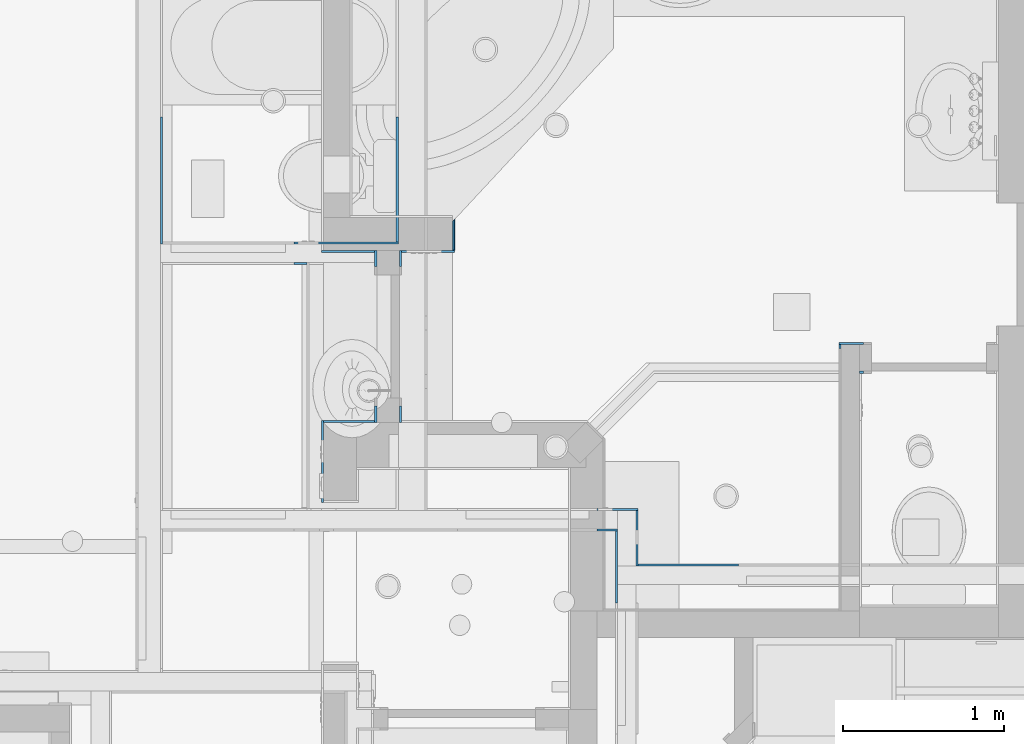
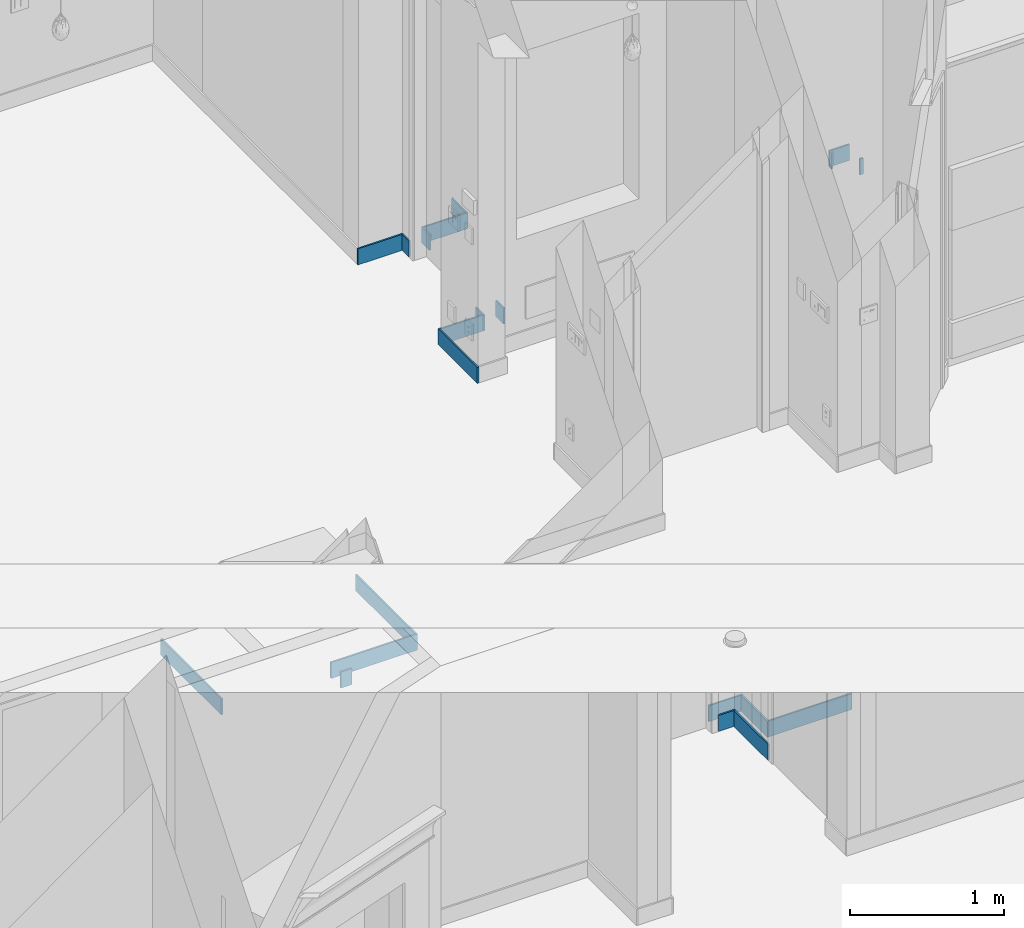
# One storey, part 24 of 81: 21 walls.
"""IFC2X3 building model written with IfcOpenShell, lengths in feet."""

from ifc_helpers import new_model, entity, si_unit, converted_unit, derived_unit, direction, frame, frame_2d, origin, place, context, subcontext, project, spatial, polyline, rectangle, extrude, clip, bounded_halfspace, material, layer, layer_set, layer_usage, type_object, element, save


model = new_model("IFC2X3")

# Units and contexts
model_context = context("Model", 3, precision=0.0001, world=origin(), true_north=direction((6.12303176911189e-17, 1.0)))
body_context = subcontext(model_context, "Body", "Model", "MODEL_VIEW")
ifc_project = project(units=[converted_unit("LENGTHUNIT", "FOOT", entity("IfcRatioMeasure", 0.3048), si_unit("LENGTHUNIT", "METRE"), dimensions=[1, 0, 0, 0, 0, 0, 0]), converted_unit("AREAUNIT", "SQUARE FOOT", entity("IfcRatioMeasure", 0.09290304), si_unit("AREAUNIT", "SQUARE_METRE"), dimensions=[2, 0, 0, 0, 0, 0, 0]), converted_unit("VOLUMEUNIT", "CUBIC FOOT", entity("IfcRatioMeasure", 0.028316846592), si_unit("VOLUMEUNIT", "CUBIC_METRE"), dimensions=[3, 0, 0, 0, 0, 0, 0]), converted_unit("PLANEANGLEUNIT", "DEGREE", entity("IfcRatioMeasure", 0.0174532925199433), si_unit("PLANEANGLEUNIT", "RADIAN"), dimensions=[0, 0, 0, 0, 0, 0, 0]), si_unit("MASSUNIT", "GRAM", prefix="KILO"), derived_unit("MASSDENSITYUNIT", [(si_unit("MASSUNIT", "GRAM", prefix="KILO"), 1), (si_unit("LENGTHUNIT", "METRE"), -3)]), derived_unit("MOMENTOFINERTIAUNIT", [(si_unit("LENGTHUNIT", "METRE"), 4)]), si_unit("TIMEUNIT", "SECOND"), si_unit("FREQUENCYUNIT", "HERTZ"), si_unit("THERMODYNAMICTEMPERATUREUNIT", "DEGREE_CELSIUS"), derived_unit("THERMALTRANSMITTANCEUNIT", [(si_unit("MASSUNIT", "GRAM", prefix="KILO"), 1), (si_unit("THERMODYNAMICTEMPERATUREUNIT", "KELVIN"), -1), (si_unit("TIMEUNIT", "SECOND"), -3)]), derived_unit("VOLUMETRICFLOWRATEUNIT", [(si_unit("LENGTHUNIT", "METRE"), 3), (si_unit("TIMEUNIT", "SECOND"), -1)]), si_unit("ELECTRICCURRENTUNIT", "AMPERE"), si_unit("ELECTRICVOLTAGEUNIT", "VOLT"), si_unit("POWERUNIT", "WATT"), si_unit("FORCEUNIT", "NEWTON"), si_unit("ILLUMINANCEUNIT", "LUX"), si_unit("LUMINOUSFLUXUNIT", "LUMEN"), si_unit("LUMINOUSINTENSITYUNIT", "CANDELA"), derived_unit("USERDEFINED", [(si_unit("MASSUNIT", "GRAM", prefix="KILO"), -1), (si_unit("LENGTHUNIT", "METRE"), -2), (si_unit("TIMEUNIT", "SECOND"), 3), (si_unit("LUMINOUSFLUXUNIT", "LUMEN"), 1)]), derived_unit("LINEARVELOCITYUNIT", [(si_unit("LENGTHUNIT", "METRE"), 1), (si_unit("TIMEUNIT", "SECOND"), -1)]), si_unit("PRESSUREUNIT", "PASCAL"), derived_unit("USERDEFINED", [(si_unit("LENGTHUNIT", "METRE"), -2), (si_unit("MASSUNIT", "GRAM", prefix="KILO"), 1), (si_unit("TIMEUNIT", "SECOND"), -2)]), derived_unit("LINEARFORCEUNIT", [(si_unit("MASSUNIT", "GRAM", prefix="KILO"), 1), (si_unit("LENGTHUNIT", "METRE"), 1), (si_unit("TIMEUNIT", "SECOND"), -2), (si_unit("LENGTHUNIT", "METRE"), -1)]), derived_unit("PLANARFORCEUNIT", [(si_unit("MASSUNIT", "GRAM", prefix="KILO"), 1), (si_unit("LENGTHUNIT", "METRE"), 1), (si_unit("TIMEUNIT", "SECOND"), -2), (si_unit("LENGTHUNIT", "METRE"), -2)])], contexts=[model_context])

# Site, building, storey
site_placement = place(None, origin())
site = spatial("IfcSite", under=ifc_project, at=site_placement, Name="Default", CompositionType="ELEMENT")
building_placement = place(site_placement, origin())
building = spatial("IfcBuilding", under=site, at=building_placement, CompositionType="ELEMENT")
storey_placement = place(building_placement, origin())
storey = spatial("IfcBuildingStorey", under=building, at=storey_placement, Name="First floor", CompositionType="ELEMENT", Elevation=0.0)

# Walls
ifc_material = material(Name="Default New Material")
ifc_layer = layer(ifc_material, 0.0416666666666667)
ifc_layer_set = layer_set([ifc_layer], Name="Basic Wall:Wall Border_T1")
ifc_layer_usage_1 = layer_usage(ifc_layer_set, "AXIS2", "POSITIVE", -0.0208333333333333)
wall_type = type_object("IfcWallType", Name="Basic Wall:Wall Border_T1", PredefinedType="STANDARD", material=ifc_layer_set)
wall_1_placement = place(storey_placement, frame((-4.8125, 43.5416666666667, 0.0), z_axis=(0.0, 0.0, 1.0), x_axis=(0.0, -1.0, 0.0)))
element("IfcWallStandardCase", 1, at=wall_1_placement, inside=storey, type_object=wall_type, material=ifc_layer_usage_1, Name="Basic Wall:Wall Border_T1", ObjectType="Basic Wall:Wall Border_T1", context=body_context, shape_type="Clipping", body=[
    clip(extrude(rectangle(XDim=2.54166666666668, YDim=0.0416666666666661, at=frame_2d((1.27083333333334, -3.64291929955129e-17), x_axis=(-1.0, 0.0))), origin(), (0.0, 0.0, 1.0), 0.416666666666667), bounded_halfspace(frame((2.54166666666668, -0.0208333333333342, 0.416666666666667), z_axis=(-1.0, 0.0, 0.0), x_axis=(0.0, -1.0, 0.0)), True, frame((2.54166666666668, -0.0208333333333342, 0.416666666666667), z_axis=(-1.0, 0.0, 0.0), x_axis=(0.0, -1.0, 0.0)), polyline([(0.0, 0.0), (-0.041666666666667, 0.0), (-0.041666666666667, -0.416666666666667), (0.0, -0.416666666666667), (0.0, 0.0)]))),
])
ifc_layer_usage_2 = layer_usage(ifc_layer_set, "AXIS2", "POSITIVE", -0.0208333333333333)
wall_2_placement = place(storey_placement, frame((-4.79166666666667, 40.9791666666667, 0.0), z_axis=(0.0, 0.0, 1.0), x_axis=(-1.0, 0.0, 0.0)))
element("IfcWallStandardCase", 2, at=wall_2_placement, inside=storey, type_object=wall_type, material=ifc_layer_usage_2, Name="Basic Wall:Wall Border_T1", ObjectType="Basic Wall:Wall Border_T1", context=body_context, shape_type="SweptSolid", body=[
    extrude(rectangle(XDim=2.125, YDim=0.0416666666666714, at=frame_2d((1.0625, 0.0), x_axis=(-1.0, 0.0))), origin(), (0.0, 0.0, 1.0), 0.416666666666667),
])
ifc_layer_usage_3 = layer_usage(ifc_layer_set, "AXIS2", "NEGATIVE", 0.0208333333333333)
wall_3_placement = place(storey_placement, frame((-9.60416666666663, 40.9583333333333, 0.0), z_axis=(0.0, 0.0, 1.0), x_axis=(0.0, 1.0, 0.0)))
element("IfcWallStandardCase", 3, at=wall_3_placement, inside=storey, type_object=wall_type, material=ifc_layer_usage_3, Name="Basic Wall:Wall Border_T1", ObjectType="Basic Wall:Wall Border_T1", context=body_context, shape_type="SweptSolid", body=[
    extrude(rectangle(XDim=2.58333333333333, YDim=0.0416666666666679, at=frame_2d((1.29166666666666, 0.0), x_axis=(-1.0, 0.0))), origin(), (0.0, 0.0, 1.0), 0.416666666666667),
])
ifc_layer_usage_4 = layer_usage(ifc_layer_set, "AXIS2", "POSITIVE", -0.0208333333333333)
wall_4_placement = place(storey_placement, frame((-6.91666666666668, 40.5625, 0.0)))
element("IfcWallStandardCase", 4, at=wall_4_placement, inside=storey, type_object=wall_type, material=ifc_layer_usage_4, Name="Basic Wall:Wall Border_T1", ObjectType="Basic Wall:Wall Border_T1", context=body_context, shape_type="SweptSolid", body=[
    extrude(rectangle(XDim=0.270833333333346, YDim=0.0416666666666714, at=frame_2d((0.135416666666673, 0.0), x_axis=(-1.0, 0.0))), origin(), (0.0, 0.0, 1.0), 0.416666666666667),
])
ifc_layer_usage_5 = layer_usage(ifc_layer_set, "AXIS2", "POSITIVE", -0.0208333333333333)
wall_5_placement = place(storey_placement, frame((2.12499999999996, 34.4375, 0.0), z_axis=(0.0, 0.0, 1.0), x_axis=(-1.0, 0.0, 0.0)))
element("IfcWallStandardCase", 5, at=wall_5_placement, inside=storey, type_object=wall_type, material=ifc_layer_usage_5, Name="Basic Wall:Wall Border_T1", ObjectType="Basic Wall:Wall Border_T1", context=body_context, shape_type="Clipping", body=[
    clip(extrude(rectangle(XDim=2.04166666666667, YDim=0.0416666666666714, at=frame_2d((1.02083333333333, -7.11236625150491e-17), x_axis=(-1.0, 0.0))), origin(), (0.0, 0.0, 1.0), 0.416666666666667), bounded_halfspace(frame((2.04166666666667, -0.0208333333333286, 0.416666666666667), z_axis=(-1.0, 0.0, 0.0), x_axis=(0.0, -1.0, 0.0)), True, frame((2.04166666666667, -0.0208333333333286, 0.416666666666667), z_axis=(-1.0, 0.0, 0.0), x_axis=(0.0, -1.0, 0.0)), polyline([(0.0, 0.0), (-0.0416666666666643, 0.0), (-0.0416666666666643, -0.416666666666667), (0.0, -0.416666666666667), (0.0, 0.0)]))),
])
ifc_layer_usage_6 = layer_usage(ifc_layer_set, "AXIS2", "POSITIVE", -0.0208333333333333)
wall_6_placement = place(storey_placement, frame((0.0624999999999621, 34.4166666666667, 0.0), z_axis=(0.0, 0.0, 1.0), x_axis=(0.0, 1.0, 0.0)))
element("IfcWallStandardCase", 6, at=wall_6_placement, inside=storey, type_object=wall_type, material=ifc_layer_usage_6, Name="Basic Wall:Wall Border_T1", ObjectType="Basic Wall:Wall Border_T1", context=body_context, shape_type="SweptSolid", body=[
    extrude(rectangle(XDim=1.12499999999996, YDim=0.0416666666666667, at=frame_2d((0.562499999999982, 0.0), x_axis=(-1.0, 0.0))), origin(), (0.0, 0.0, 1.0), 0.416666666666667),
])
ifc_layer_usage_7 = layer_usage(ifc_layer_set, "AXIS2", "POSITIVE", -0.0208333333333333)
wall_7_placement = place(storey_placement, frame((0.0833333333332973, 35.5625, 0.0), z_axis=(0.0, 0.0, 1.0), x_axis=(-1.0, 0.0, 0.0)))
element("IfcWallStandardCase", 7, at=wall_7_placement, inside=storey, type_object=wall_type, material=ifc_layer_usage_7, Name="Basic Wall:Wall Border_T1", ObjectType="Basic Wall:Wall Border_T1", context=body_context, shape_type="SweptSolid", body=[
    extrude(rectangle(XDim=0.833333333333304, YDim=0.0416666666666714, at=frame_2d((0.416666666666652, 0.0), x_axis=(-1.0, 0.0))), origin(), (0.0, 0.0, 1.0), 0.416666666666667),
])
ifc_layer_usage_8 = layer_usage(ifc_layer_set, "AXIS2", "NEGATIVE", 0.0208333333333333)
wall_8_placement = place(storey_placement, frame((-0.75, 35.1458333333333, 0.0)))
element("IfcWallStandardCase", 8, at=wall_8_placement, inside=storey, type_object=wall_type, material=ifc_layer_usage_8, Name="Basic Wall:Wall Border_T1", ObjectType="Basic Wall:Wall Border_T1", context=body_context, shape_type="SweptSolid", body=[
    extrude(rectangle(XDim=0.416666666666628, YDim=0.0416666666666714, at=frame_2d((0.208333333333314, 0.0), x_axis=(-1.0, 0.0))), origin(), (0.0, 0.0, 1.0), 0.416666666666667),
])
ifc_layer_usage_9 = layer_usage(ifc_layer_set, "AXIS2", "NEGATIVE", 0.0208333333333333)
wall_9_placement = place(storey_placement, frame((-0.354166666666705, 35.125, 0.0), z_axis=(0.0, 0.0, 1.0), x_axis=(0.0, -1.0, 0.0)))
element("IfcWallStandardCase", 9, at=wall_9_placement, inside=storey, type_object=wall_type, material=ifc_layer_usage_9, Name="Basic Wall:Wall Border_T1", ObjectType="Basic Wall:Wall Border_T1", context=body_context, shape_type="SweptSolid", body=[
    extrude(rectangle(XDim=1.45833333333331, YDim=0.0416666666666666, at=frame_2d((0.729166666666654, 0.0), x_axis=(-1.0, 0.0))), origin(), (0.0, 0.0, 1.0), 0.416666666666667),
])
ifc_layer_usage_10 = layer_usage(ifc_layer_set, "AXIS2", "NEGATIVE", 0.0208333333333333)
wall_10_placement = place(storey_placement, frame((-5.25, 40.4996548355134, 10.6666666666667), z_axis=(0.0, 0.0, 1.0), x_axis=(0.0, 1.0, 0.0)))
element("IfcWallStandardCase", 10, at=wall_10_placement, inside=storey, type_object=wall_type, material=ifc_layer_usage_10, Name="Basic Wall:Wall Border_T1", ObjectType="Basic Wall:Wall Border_T1", context=body_context, shape_type="SweptSolid", body=[
    extrude(rectangle(XDim=0.333333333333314, YDim=0.0416666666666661, at=frame_2d((0.166666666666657, 5.89805981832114e-17), x_axis=(-1.0, 0.0))), origin(), (0.0, 0.0, 1.0), 0.416666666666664),
])
ifc_layer_usage_11 = layer_usage(ifc_layer_set, "AXIS2", "NEGATIVE", 0.0208333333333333)
wall_11_placement = place(storey_placement, frame((-5.27083333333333, 40.8121548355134, 10.6666666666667), z_axis=(0.0, 0.0, 1.0), x_axis=(-1.0, 0.0, 0.0)))
element("IfcWallStandardCase", 11, at=wall_11_placement, inside=storey, type_object=wall_type, material=ifc_layer_usage_11, Name="Basic Wall:Wall Border_T1", ObjectType="Basic Wall:Wall Border_T1", context=body_context, shape_type="SweptSolid", body=[
    extrude(rectangle(XDim=1.08333333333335, YDim=0.0416666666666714, at=frame_2d((0.541666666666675, 2.33840724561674e-15), x_axis=(-1.0, 0.0))), origin(), (0.0, 0.0, 1.0), 0.416666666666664),
])
ifc_layer_usage_12 = layer_usage(ifc_layer_set, "AXIS2", "NEGATIVE", 0.0208333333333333)
wall_12_placement = place(storey_placement, frame((-6.33333333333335, 37.375, 10.6666666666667), z_axis=(0.0, 0.0, 1.0), x_axis=(0.0, -1.0, 0.0)))
element("IfcWallStandardCase", 12, at=wall_12_placement, inside=storey, type_object=wall_type, material=ifc_layer_usage_12, Name="Basic Wall:Wall Border_T1", ObjectType="Basic Wall:Wall Border_T1", context=body_context, shape_type="SweptSolid", body=[
    extrude(rectangle(XDim=1.66666666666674, YDim=0.0416666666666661, at=frame_2d((0.833333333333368, 9.8879238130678e-17), x_axis=(-1.0, 0.0))), origin(), (0.0, 0.0, 1.0), 0.416666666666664),
])
ifc_layer_usage_13 = layer_usage(ifc_layer_set, "AXIS2", "NEGATIVE", 0.0208333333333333)
wall_13_placement = place(storey_placement, frame((-5.25, 37.66632150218, 10.6666666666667), z_axis=(0.0, 0.0, 1.0), x_axis=(0.0, -1.0, 0.0)))
element("IfcWallStandardCase", 13, at=wall_13_placement, inside=storey, type_object=wall_type, material=ifc_layer_usage_13, Name="Basic Wall:Wall Border_T1", ObjectType="Basic Wall:Wall Border_T1", context=body_context, shape_type="SweptSolid", body=[
    extrude(rectangle(XDim=0.332988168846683, YDim=0.0416666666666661, at=frame_2d((0.166494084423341, 2.94902990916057e-17), x_axis=(-1.0, 0.0))), origin(), (0.0, 0.0, 1.0), 0.416666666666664),
])
ifc_layer_usage_14 = layer_usage(ifc_layer_set, "AXIS2", "NEGATIVE", 0.0208333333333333)
wall_14_placement = place(storey_placement, frame((-5.27083333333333, 37.3541666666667, 10.6666666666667), z_axis=(0.0, 0.0, 1.0), x_axis=(-1.0, 0.0, 0.0)))
element("IfcWallStandardCase", 14, at=wall_14_placement, inside=storey, type_object=wall_type, material=ifc_layer_usage_14, Name="Basic Wall:Wall Border_T1", ObjectType="Basic Wall:Wall Border_T1", context=body_context, shape_type="SweptSolid", body=[
    extrude(rectangle(XDim=1.04166666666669, YDim=0.0416666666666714, at=frame_2d((0.520833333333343, -7.0082828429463e-16), x_axis=(-1.0, 0.0))), origin(), (0.0, 0.0, 1.0), 0.416666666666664),
])
ifc_layer_usage_15 = layer_usage(ifc_layer_set, "AXIS2", "NEGATIVE", 0.0208333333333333)
wall_15_placement = place(storey_placement, frame((-4.75, 40.4996548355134, 10.6666666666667), z_axis=(0.0, 0.0, 1.0), x_axis=(0.0, 1.0, 0.0)))
element("IfcWallStandardCase", 15, at=wall_15_placement, inside=storey, type_object=wall_type, material=ifc_layer_usage_15, Name="Basic Wall:Wall Border_T1", ObjectType="Basic Wall:Wall Border_T1", context=body_context, shape_type="SweptSolid", body=[
    extrude(rectangle(XDim=0.333333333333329, YDim=0.0416666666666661, at=frame_2d((0.166666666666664, 0.0), x_axis=(-1.0, 0.0))), origin(), (0.0, 0.0, 1.0), 0.416666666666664),
])
ifc_layer_usage_16 = layer_usage(ifc_layer_set, "AXIS2", "NEGATIVE", 0.0208333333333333)
wall_16_placement = place(storey_placement, frame((-4.72916666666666, 40.8121548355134, 10.6666666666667)))
element("IfcWallStandardCase", 16, at=wall_16_placement, inside=storey, type_object=wall_type, material=ifc_layer_usage_16, Name="Basic Wall:Wall Border_T1", ObjectType="Basic Wall:Wall Border_T1", context=body_context, shape_type="SweptSolid", body=[
    extrude(rectangle(XDim=1.08333333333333, YDim=0.0416666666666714, at=frame_2d((0.541666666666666, 2.0643209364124e-16), x_axis=(-1.0, 0.0))), origin(), (0.0, 0.0, 1.0), 0.416666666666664),
])
ifc_layer_usage_17 = layer_usage(ifc_layer_set, "AXIS2", "NEGATIVE", 0.0208333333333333)
wall_17_placement = place(storey_placement, frame((-3.66666666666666, 40.8329881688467, 10.6666666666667), z_axis=(0.0, 0.0, 1.0), x_axis=(0.0, 1.0, 0.0)))
element("IfcWallStandardCase", 17, at=wall_17_placement, inside=storey, type_object=wall_type, material=ifc_layer_usage_17, Name="Basic Wall:Wall Border_T1", ObjectType="Basic Wall:Wall Border_T1", context=body_context, shape_type="Clipping", body=[
    clip(extrude(rectangle(XDim=0.628184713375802, YDim=0.041666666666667, at=frame_2d((0.314092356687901, 1.83880688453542e-16), x_axis=(-1.0, 0.0))), origin(), (0.0, 0.0, 1.0), 0.416666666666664), bounded_halfspace(frame((0.628184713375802, -0.0208333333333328, 0.416666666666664), z_axis=(-0.68061736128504, -0.732639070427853, 0.0), x_axis=(0.0, 0.0, -1.0)), True, frame((0.628184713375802, -0.0208333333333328, 0.416666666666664), z_axis=(-0.68061736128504, -0.732639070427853, 0.0), x_axis=(0.0, 0.0, -1.0)), polyline([(0.0, 0.0), (0.0, -0.0612189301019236), (0.416666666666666, -0.0612189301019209), (0.416666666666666, 0.0), (0.0, 0.0)]))),
])
ifc_layer_usage_18 = layer_usage(ifc_layer_set, "AXIS2", "NEGATIVE", 0.0208333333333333)
wall_18_placement = place(storey_placement, frame((-4.75, 37.66632150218, 10.6666666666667), z_axis=(0.0, 0.0, 1.0), x_axis=(0.0, -1.0, 0.0)))
element("IfcWallStandardCase", 18, at=wall_18_placement, inside=storey, type_object=wall_type, material=ifc_layer_usage_18, Name="Basic Wall:Wall Border_T1", ObjectType="Basic Wall:Wall Border_T1", context=body_context, shape_type="SweptSolid", body=[
    extrude(rectangle(XDim=0.33298816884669, YDim=0.0416666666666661, at=frame_2d((0.166494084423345, 2.94902990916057e-17), x_axis=(-1.0, 0.0))), origin(), (0.0, 0.0, 1.0), 0.416666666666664),
])
ifc_layer_usage_19 = layer_usage(ifc_layer_set, "AXIS2", "NEGATIVE", 0.0208333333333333)
wall_19_placement = place(storey_placement, frame((4.66666666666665, 38.9371548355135, 10.6666666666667), z_axis=(0.0, 0.0, 1.0), x_axis=(-1.0, 0.0, 0.0)))
element("IfcWallStandardCase", 19, at=wall_19_placement, inside=storey, type_object=wall_type, material=ifc_layer_usage_19, Name="Basic Wall:Wall Border_T1", ObjectType="Basic Wall:Wall Border_T1", context=body_context, shape_type="SweptSolid", body=[
    extrude(rectangle(XDim=0.499999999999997, YDim=0.0416666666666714, at=frame_2d((0.249999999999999, 0.0), x_axis=(-1.0, 0.0))), origin(), (0.0, 0.0, 1.0), 0.416666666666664),
])
ifc_layer_usage_20 = layer_usage(ifc_layer_set, "AXIS2", "NEGATIVE", 0.0208333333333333)
wall_20_placement = place(storey_placement, frame((4.18749999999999, 38.9163215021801, 10.6666666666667), z_axis=(0.0, 0.0, 1.0), x_axis=(0.0, -1.0, 0.0)))
element("IfcWallStandardCase", 20, at=wall_20_placement, inside=storey, type_object=wall_type, material=ifc_layer_usage_20, Name="Basic Wall:Wall Border_T1", ObjectType="Basic Wall:Wall Border_T1", context=body_context, shape_type="SweptSolid", body=[
    extrude(rectangle(XDim=0.0829881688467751, YDim=0.0416666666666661, at=frame_2d((0.0414940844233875, 6.07153216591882e-17), x_axis=(-1.0, 0.0))), origin(), (0.0, 0.0, 1.0), 0.416666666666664),
])
ifc_layer_usage_21 = layer_usage(ifc_layer_set, "AXIS2", "NEGATIVE", 0.0208333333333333)
wall_21_placement = place(storey_placement, frame((4.66666666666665, 38.3538215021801, 10.6666666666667), z_axis=(0.0, 0.0, 1.0), x_axis=(-1.0, 0.0, 0.0)))
element("IfcWallStandardCase", 21, at=wall_21_placement, inside=storey, type_object=wall_type, material=ifc_layer_usage_21, Name="Basic Wall:Wall Border_T1", ObjectType="Basic Wall:Wall Border_T1", context=body_context, shape_type="SweptSolid", body=[
    extrude(rectangle(XDim=0.0833333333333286, YDim=0.0416666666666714, at=frame_2d((0.0416666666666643, 0.0), x_axis=(-1.0, 0.0))), origin(), (0.0, 0.0, 1.0), 0.416666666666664),
])

save(model, "model.ifc")
